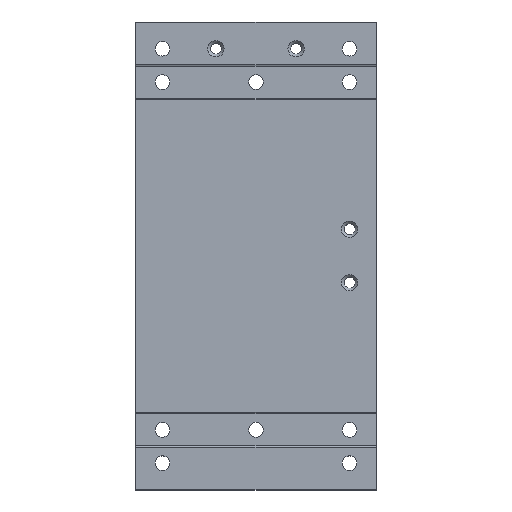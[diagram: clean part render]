
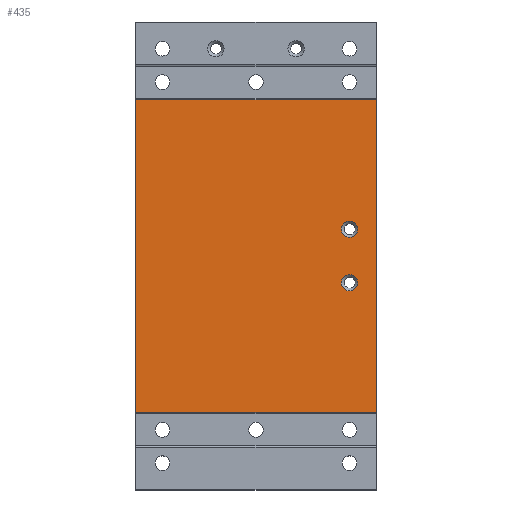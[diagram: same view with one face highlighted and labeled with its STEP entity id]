
A CAD part, top view. The second image highlights one B-rep face of the part: STEP entity #435.
In plain terms, the highlighted planar face has unit normal (0, 0, 1).
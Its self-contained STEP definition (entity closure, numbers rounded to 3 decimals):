
#435=ADVANCED_FACE('',(#921,#923,#925),#927,.F.);
#921=FACE_BOUND('',#922,.T.);
#922=EDGE_LOOP('',(#1174,#1175,#1176,#1177));
#923=FACE_BOUND('',#924,.T.);
#924=EDGE_LOOP('',(#1178));
#925=FACE_BOUND('',#926,.T.);
#926=EDGE_LOOP('',(#1179));
#927=PLANE('',#928);
#928=AXIS2_PLACEMENT_3D('',#929,#930,#931);
#929=CARTESIAN_POINT('',(0.,0.,14.));
#930=DIRECTION('',(0.,0.,-1.));
#931=DIRECTION('',(-1.,0.,0.));
#1174=ORIENTED_EDGE('',*,*,#1297,.T.);
#1175=ORIENTED_EDGE('',*,*,#1257,.F.);
#1176=ORIENTED_EDGE('',*,*,#1303,.T.);
#1177=ORIENTED_EDGE('',*,*,#1284,.F.);
#1178=ORIENTED_EDGE('',*,*,#1306,.T.);
#1179=ORIENTED_EDGE('',*,*,#1307,.T.);
#1257=EDGE_CURVE('',#1411,#1413,#1414,.T.);
#1284=EDGE_CURVE('',#1457,#1459,#1460,.T.);
#1297=EDGE_CURVE('',#1457,#1413,#1481,.T.);
#1303=EDGE_CURVE('',#1411,#1459,#1487,.T.);
#1306=EDGE_CURVE('',#1492,#1492,#1493,.T.);
#1307=EDGE_CURVE('',#1494,#1494,#1495,.T.);
#1411=VERTEX_POINT('',#1736);
#1413=VERTEX_POINT('',#1740);
#1414=LINE('',#1741,#1742);
#1457=VERTEX_POINT('',#1843);
#1459=VERTEX_POINT('',#1847);
#1460=LINE('',#1848,#1849);
#1481=LINE('',#1903,#1904);
#1487=LINE('',#1921,#1922);
#1492=VERTEX_POINT('',#1934);
#1493=CIRCLE('',#1935,3.067);
#1494=VERTEX_POINT('',#1939);
#1495=CIRCLE('',#1940,3.067);
#1736=CARTESIAN_POINT('',(45.,58.5,14.));
#1740=CARTESIAN_POINT('',(45.,-58.5,14.));
#1741=CARTESIAN_POINT('',(45.,58.5,14.));
#1742=VECTOR('',#1743,1.);
#1743=DIRECTION('',(0.,-1.,0.));
#1843=CARTESIAN_POINT('',(-45.,-58.5,14.));
#1847=CARTESIAN_POINT('',(-45.,58.5,14.));
#1848=CARTESIAN_POINT('',(-45.,-58.5,14.));
#1849=VECTOR('',#1850,1.);
#1850=DIRECTION('',(0.,1.,0.));
#1903=CARTESIAN_POINT('',(-45.,-58.5,14.));
#1904=VECTOR('',#1905,1.);
#1905=DIRECTION('',(1.,0.,0.));
#1921=CARTESIAN_POINT('',(45.,58.5,14.));
#1922=VECTOR('',#1923,1.);
#1923=DIRECTION('',(-1.,0.,0.));
#1934=CARTESIAN_POINT('',(38.067,10.,14.));
#1935=AXIS2_PLACEMENT_3D('',#1936,#1937,#1938);
#1936=CARTESIAN_POINT('',(35.,10.,14.));
#1937=DIRECTION('',(0.,0.,-1.));
#1938=DIRECTION('',(1.,0.,0.));
#1939=CARTESIAN_POINT('',(38.067,-10.,14.));
#1940=AXIS2_PLACEMENT_3D('',#1941,#1942,#1943);
#1941=CARTESIAN_POINT('',(35.,-10.,14.));
#1942=DIRECTION('',(0.,0.,-1.));
#1943=DIRECTION('',(1.,0.,0.));
